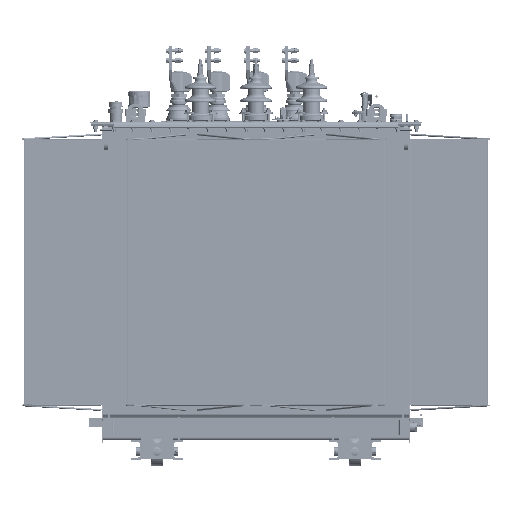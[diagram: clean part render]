
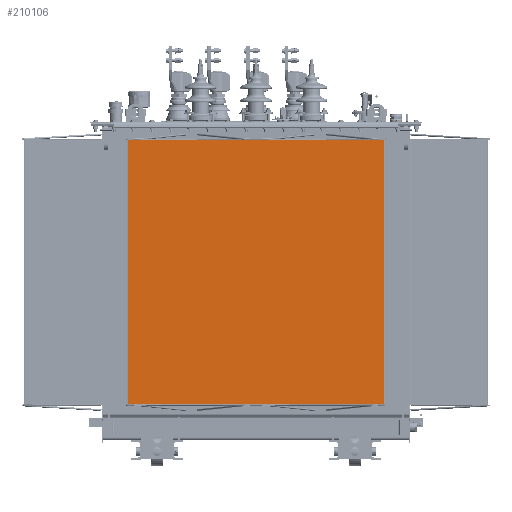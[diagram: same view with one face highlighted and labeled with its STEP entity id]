
A CAD part, front view. The second image highlights one B-rep face of the part: STEP entity #210106.
In plain terms, the highlighted planar face has unit normal (0, -1, 0).
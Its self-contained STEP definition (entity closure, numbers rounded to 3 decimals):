
#12176=PLANE('',#229914);
#24337=FACE_OUTER_BOUND('',#37804,.T.);
#37804=EDGE_LOOP('',(#183691,#183692,#183693,#183694));
#52209=LINE('',#402665,#66635);
#52210=LINE('',#402668,#66636);
#52211=LINE('',#402670,#66637);
#52212=LINE('',#402671,#66638);
#66635=VECTOR('',#283699,10.);
#66636=VECTOR('',#283702,10.);
#66637=VECTOR('',#283703,10.);
#66638=VECTOR('',#283704,10.);
#97300=VERTEX_POINT('',#402659);
#97302=VERTEX_POINT('',#402663);
#97303=VERTEX_POINT('',#402667);
#97304=VERTEX_POINT('',#402669);
#126110=EDGE_CURVE('',#97300,#97302,#52209,.T.);
#126111=EDGE_CURVE('',#97300,#97303,#52210,.T.);
#126112=EDGE_CURVE('',#97304,#97302,#52211,.T.);
#126113=EDGE_CURVE('',#97303,#97304,#52212,.T.);
#183691=ORIENTED_EDGE('',*,*,#126111,.F.);
#183692=ORIENTED_EDGE('',*,*,#126110,.T.);
#183693=ORIENTED_EDGE('',*,*,#126112,.F.);
#183694=ORIENTED_EDGE('',*,*,#126113,.F.);
#210106=ADVANCED_FACE('',(#24337),#12176,.T.);
#229914=AXIS2_PLACEMENT_3D('',#402666,#283700,#283701);
#283699=DIRECTION('',(0.,0.,1.));
#283700=DIRECTION('center_axis',(0.,-1.,0.));
#283701=DIRECTION('ref_axis',(1.,0.,0.));
#283702=DIRECTION('',(-1.,0.,0.));
#283703=DIRECTION('',(1.,0.,0.));
#283704=DIRECTION('',(0.,0.,1.));
#402659=CARTESIAN_POINT('',(528.6,-590.3,145.));
#402663=CARTESIAN_POINT('',(528.6,-590.3,1245.));
#402665=CARTESIAN_POINT('',(528.6,-590.3,145.));
#402666=CARTESIAN_POINT('Origin',(-531.4,-590.3,145.));
#402667=CARTESIAN_POINT('',(-531.4,-590.3,145.));
#402668=CARTESIAN_POINT('',(528.6,-590.3,145.));
#402669=CARTESIAN_POINT('',(-531.4,-590.3,1245.));
#402670=CARTESIAN_POINT('',(528.6,-590.3,1245.));
#402671=CARTESIAN_POINT('',(-531.4,-590.3,145.));
